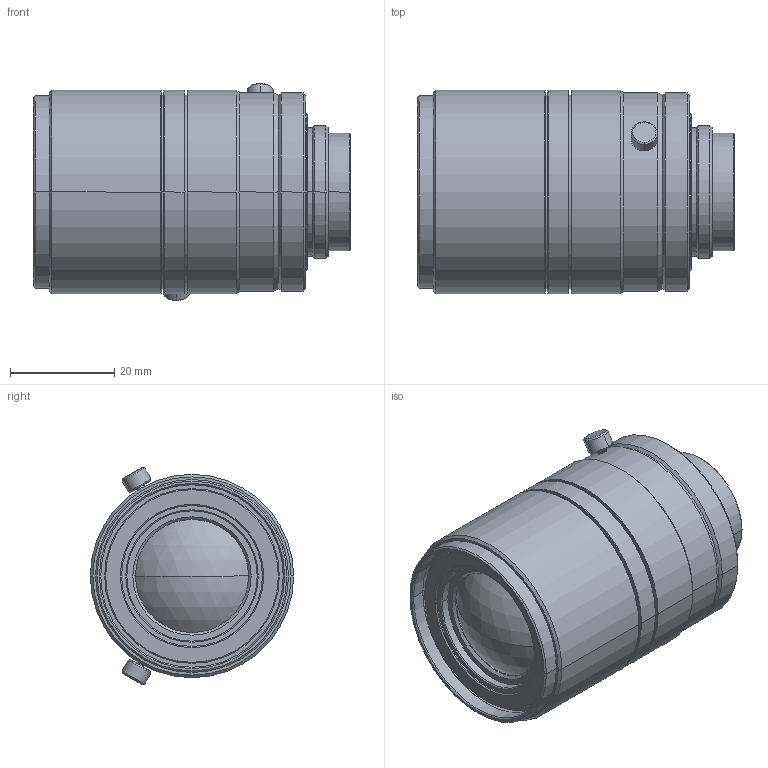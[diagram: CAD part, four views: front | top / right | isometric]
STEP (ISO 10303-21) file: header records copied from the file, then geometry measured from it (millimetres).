
FILE_DESCRIPTION (( 'STEP AP203' ), '1' );
FILE_NAME ('SV-0814H.STEP', '2015-07-17T07:15:19', ( 'miura_vst' ), ( '' ), 'SwSTEP 2.0', 'SolidWorks 2015', '' );
FILE_SCHEMA (( 'CONFIG_CONTROL_DESIGN' ));
Length unit declared in the file: millimetre
Products named in the file (1): SV-0814H
Bounding box: 60.82 x 39 x 41.69 mm (x, y, z)
Volume: 61996.4 mm3; surface area: 10779.6 mm2
Topology: 1 solids, 1 shells, 128 faces, 254 edges, 148 vertices
Faces by surface type: cone 56, cylinder 48, plane 20, sphere 4
Entity records: 3419 total; most frequent: DIRECTION 654, CARTESIAN_POINT 589, ORIENTED_EDGE 508, AXIS2_PLACEMENT_3D 275, EDGE_CURVE 254, VERTEX_POINT 148, EDGE_LOOP 148, CIRCLE 146
